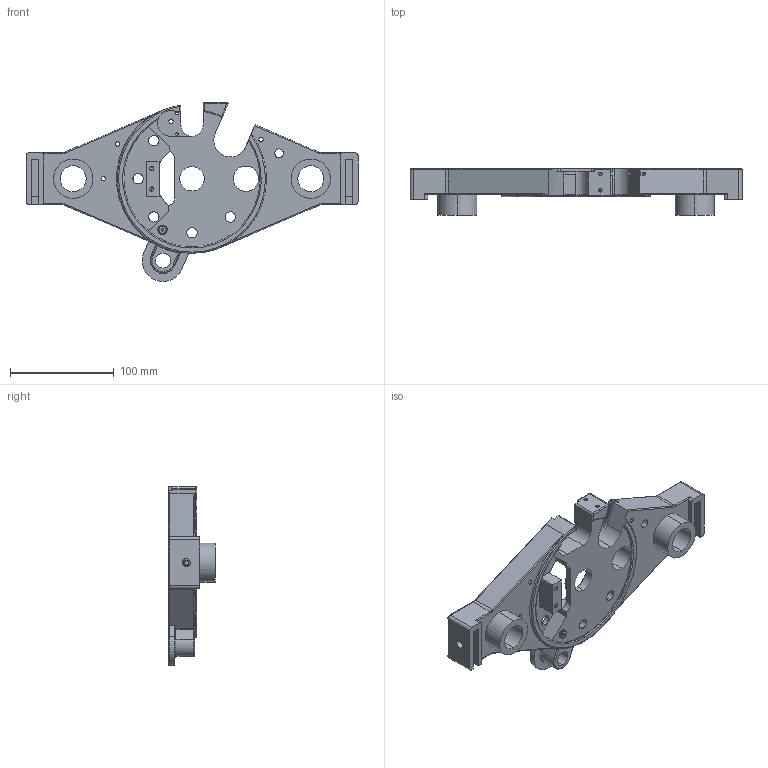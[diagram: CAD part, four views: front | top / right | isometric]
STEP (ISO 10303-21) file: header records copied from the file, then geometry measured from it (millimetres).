
FILE_DESCRIPTION (( 'STEP AP203' ), '1' );
FILE_NAME ('154.STEP', '2025-02-10T09:11:07', ( '' ), ( '' ), 'SwSTEP 2.0', 'SolidWorks 2021', '' );
FILE_SCHEMA (( 'CONFIG_CONTROL_DESIGN' ));
Length unit declared in the file: millimetre
Products named in the file (1): 154
Bounding box: 320 x 45 x 172.38 mm (x, y, z)
Volume: 537379.8 mm3; surface area: 112041.1 mm2
Topology: 1 solids, 1 shells, 328 faces, 868 edges, 534 vertices
Faces by surface type: cylinder 155, plane 92, torus 52, cone 18, bspline 10, sphere 1
Entity records: 11616 total; most frequent: CARTESIAN_POINT 3301, DIRECTION 1809, ORIENTED_EDGE 1700, EDGE_CURVE 850, AXIS2_PLACEMENT_3D 719, VERTEX_POINT 534, CIRCLE 400, EDGE_LOOP 380
